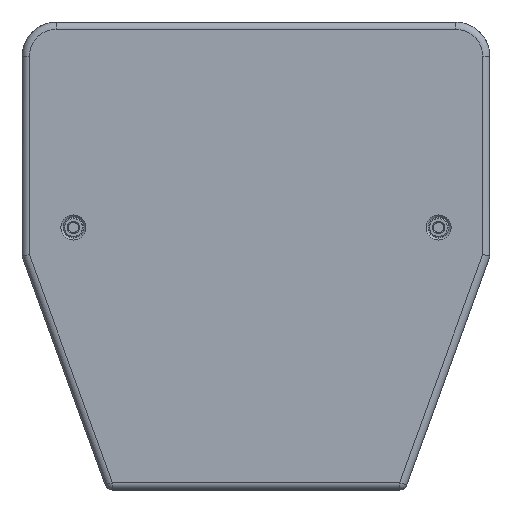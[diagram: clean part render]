
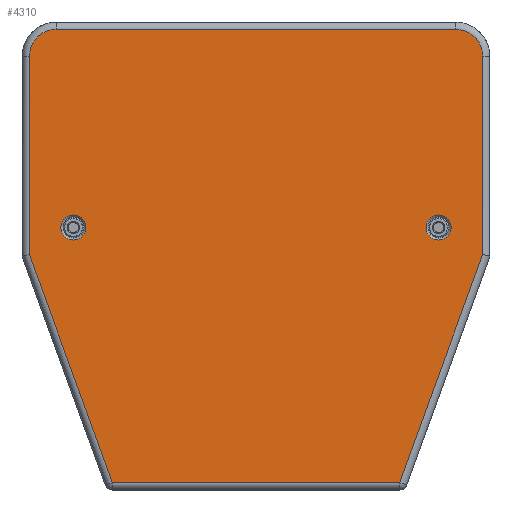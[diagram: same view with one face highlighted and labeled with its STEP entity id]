
A CAD part, front view. The second image highlights one B-rep face of the part: STEP entity #4310.
In plain terms, the highlighted planar face has unit normal (0, -1, 0) as drawn and (0, 0, -1) by its records, which use the part's own axes.
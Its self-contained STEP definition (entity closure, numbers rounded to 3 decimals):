
#861 = VERTEX_POINT ( 'NONE', #12406 ) ;
#862 = EDGE_CURVE ( 'NONE', #865, #861, #12405, .T. ) ;
#865 = VERTEX_POINT ( 'NONE', #12399 ) ;
#902 = EDGE_CURVE ( 'NONE', #909, #921, #12462, .T. ) ;
#909 = VERTEX_POINT ( 'NONE', #12452 ) ;
#910 = EDGE_CURVE ( 'NONE', #921, #909, #12511, .T. ) ;
#921 = VERTEX_POINT ( 'NONE', #12490 ) ;
#928 = VERTEX_POINT ( 'NONE', #12541 ) ;
#930 = VERTEX_POINT ( 'NONE', #12540 ) ;
#936 = VERTEX_POINT ( 'NONE', #12537 ) ;
#937 = EDGE_CURVE ( 'NONE', #928, #930, #12536, .T. ) ;
#959 = VERTEX_POINT ( 'NONE', #12555 ) ;
#975 = VERTEX_POINT ( 'NONE', #12583 ) ;
#984 = EDGE_CURVE ( 'NONE', #861, #865, #12581, .T. ) ;
#1001 = EDGE_CURVE ( 'NONE', #930, #936, #12649, .T. ) ;
#1007 = EDGE_CURVE ( 'NONE', #1017, #959, #12676, .T. ) ;
#1015 = EDGE_CURVE ( 'NONE', #936, #1017, #12663, .T. ) ;
#1017 = VERTEX_POINT ( 'NONE', #12658 ) ;
#1022 = VERTEX_POINT ( 'NONE', #12652 ) ;
#1024 = EDGE_CURVE ( 'NONE', #959, #1022, #12692, .T. ) ;
#1046 = EDGE_CURVE ( 'NONE', #975, #928, #12712, .T. ) ;
#3866 = EDGE_CURVE ( 'NONE', #1022, #4134, #12830, .T. ) ;
#4134 = VERTEX_POINT ( 'NONE', #12894 ) ;
#4283 = ORIENTED_EDGE ( 'NONE', *, *, #4287, .F. ) ;
#4287 = EDGE_CURVE ( 'NONE', #4134, #975, #13202, .T. ) ;
#4288 = ORIENTED_EDGE ( 'NONE', *, *, #937, .F. ) ;
#4289 = ORIENTED_EDGE ( 'NONE', *, *, #1046, .F. ) ;
#4296 = EDGE_LOOP ( 'NONE', ( #4297, #4298, #4299, #4288, #4289, #4283, #4335, #4338 ) ) ;
#4297 = ORIENTED_EDGE ( 'NONE', *, *, #1007, .F. ) ;
#4298 = ORIENTED_EDGE ( 'NONE', *, *, #1015, .F. ) ;
#4299 = ORIENTED_EDGE ( 'NONE', *, *, #1001, .F. ) ;
#4310 = ADVANCED_FACE ( 'NONE', ( #13233, #13232, #13231 ), #13230, .F. ) ;
#4316 = EDGE_LOOP ( 'NONE', ( #4320, #4317 ) ) ;
#4317 = ORIENTED_EDGE ( 'NONE', *, *, #910, .F. ) ;
#4320 = ORIENTED_EDGE ( 'NONE', *, *, #902, .F. ) ;
#4333 = ORIENTED_EDGE ( 'NONE', *, *, #862, .F. ) ;
#4334 = EDGE_LOOP ( 'NONE', ( #4336, #4333 ) ) ;
#4335 = ORIENTED_EDGE ( 'NONE', *, *, #3866, .F. ) ;
#4336 = ORIENTED_EDGE ( 'NONE', *, *, #984, .F. ) ;
#4338 = ORIENTED_EDGE ( 'NONE', *, *, #1024, .F. ) ;
#12399 = CARTESIAN_POINT ( 'NONE',  ( 45., 169., -15. ) ) ;
#12401 = DIRECTION ( 'NONE',  ( 0., 1., 0. ) ) ;
#12402 = DIRECTION ( 'NONE',  ( 0., 0., -1. ) ) ;
#12403 = CARTESIAN_POINT ( 'NONE',  ( 45., 180., -15. ) ) ;
#12404 = AXIS2_PLACEMENT_3D ( 'NONE', #12403, #12402, #12401 ) ;
#12405 = CIRCLE ( 'NONE', #12404, 11. ) ;
#12406 = CARTESIAN_POINT ( 'NONE',  ( 45., 191., -15. ) ) ;
#12452 = CARTESIAN_POINT ( 'NONE',  ( 365., 191., -15. ) ) ;
#12458 = DIRECTION ( 'NONE',  ( 0., 1., 0. ) ) ;
#12459 = DIRECTION ( 'NONE',  ( 0., 0., -1. ) ) ;
#12460 = CARTESIAN_POINT ( 'NONE',  ( 365., 180., -15. ) ) ;
#12461 = AXIS2_PLACEMENT_3D ( 'NONE', #12460, #12459, #12458 ) ;
#12462 = CIRCLE ( 'NONE', #12461, 11. ) ;
#12490 = CARTESIAN_POINT ( 'NONE',  ( 365., 169., -15. ) ) ;
#12507 = DIRECTION ( 'NONE',  ( 0., 1., 0. ) ) ;
#12508 = DIRECTION ( 'NONE',  ( 0., 0., -1. ) ) ;
#12509 = CARTESIAN_POINT ( 'NONE',  ( 365., 180., -15. ) ) ;
#12510 = AXIS2_PLACEMENT_3D ( 'NONE', #12509, #12508, #12507 ) ;
#12511 = CIRCLE ( 'NONE', #12510, 11. ) ;
#12533 = DIRECTION ( 'NONE',  ( 0., -1., 0. ) ) ;
#12534 = VECTOR ( 'NONE', #12533, 1000. ) ;
#12535 = CARTESIAN_POINT ( 'NONE',  ( 6.5, 30., -15. ) ) ;
#12536 = LINE ( 'NONE', #12535, #12534 ) ;
#12537 = CARTESIAN_POINT ( 'NONE',  ( 30., 6.5, -15. ) ) ;
#12540 = CARTESIAN_POINT ( 'NONE',  ( 6.5, 30., -15. ) ) ;
#12541 = CARTESIAN_POINT ( 'NONE',  ( 6.5, 203.854, -15. ) ) ;
#12555 = CARTESIAN_POINT ( 'NONE',  ( 403.5, 30., -15. ) ) ;
#12577 = DIRECTION ( 'NONE',  ( 0., 1., 0. ) ) ;
#12578 = DIRECTION ( 'NONE',  ( 0., 0., -1. ) ) ;
#12579 = CARTESIAN_POINT ( 'NONE',  ( 45., 180., -15. ) ) ;
#12580 = AXIS2_PLACEMENT_3D ( 'NONE', #12579, #12578, #12577 ) ;
#12581 = CIRCLE ( 'NONE', #12580, 11. ) ;
#12583 = CARTESIAN_POINT ( 'NONE',  ( 79.165, 403.5, -15. ) ) ;
#12645 = CARTESIAN_POINT ( 'NONE',  ( 30., 6.5, -15. ) ) ;
#12646 = CARTESIAN_POINT ( 'NONE',  ( 16.234, 6.5, -15. ) ) ;
#12647 = CARTESIAN_POINT ( 'NONE',  ( 6.5, 16.234, -15. ) ) ;
#12648 = CARTESIAN_POINT ( 'NONE',  ( 6.5, 30., -15. ) ) ;
#12649 =( BOUNDED_CURVE ( )  B_SPLINE_CURVE ( 3, ( #12648, #12647, #12646, #12645 ),
 .UNSPECIFIED., .F., .T. ) 
 B_SPLINE_CURVE_WITH_KNOTS ( ( 4, 4 ),
 ( 0., 1. ),
 .UNSPECIFIED. ) 
 CURVE ( )  GEOMETRIC_REPRESENTATION_ITEM ( )  RATIONAL_B_SPLINE_CURVE ( ( 1., 0.805, 0.805, 1. ) ) 
 REPRESENTATION_ITEM ( '' )  );
#12652 = CARTESIAN_POINT ( 'NONE',  ( 403.5, 203.854, -15. ) ) ;
#12658 = CARTESIAN_POINT ( 'NONE',  ( 380., 6.5, -15. ) ) ;
#12660 = DIRECTION ( 'NONE',  ( 1., 0., 0. ) ) ;
#12661 = VECTOR ( 'NONE', #12660, 1000. ) ;
#12662 = CARTESIAN_POINT ( 'NONE',  ( 0., 6.5, -15. ) ) ;
#12663 = LINE ( 'NONE', #12662, #12661 ) ;
#12672 = CARTESIAN_POINT ( 'NONE',  ( 403.5, 30., -15. ) ) ;
#12673 = CARTESIAN_POINT ( 'NONE',  ( 403.5, 16.234, -15. ) ) ;
#12674 = CARTESIAN_POINT ( 'NONE',  ( 393.766, 6.5, -15. ) ) ;
#12675 = CARTESIAN_POINT ( 'NONE',  ( 380., 6.5, -15. ) ) ;
#12676 =( BOUNDED_CURVE ( )  B_SPLINE_CURVE ( 3, ( #12675, #12674, #12673, #12672 ),
 .UNSPECIFIED., .F., .T. ) 
 B_SPLINE_CURVE_WITH_KNOTS ( ( 4, 4 ),
 ( 0., 1. ),
 .UNSPECIFIED. ) 
 CURVE ( )  GEOMETRIC_REPRESENTATION_ITEM ( )  RATIONAL_B_SPLINE_CURVE ( ( 1., 0.805, 0.805, 1. ) ) 
 REPRESENTATION_ITEM ( '' )  );
#12689 = DIRECTION ( 'NONE',  ( 0., 1., 0. ) ) ;
#12690 = VECTOR ( 'NONE', #12689, 1000. ) ;
#12691 = CARTESIAN_POINT ( 'NONE',  ( 403.5, 30., -15. ) ) ;
#12692 = LINE ( 'NONE', #12691, #12690 ) ;
#12709 = DIRECTION ( 'NONE',  ( -0.342, -0.94, 0. ) ) ;
#12710 = VECTOR ( 'NONE', #12709, 1000. ) ;
#12711 = CARTESIAN_POINT ( 'NONE',  ( 79.165, 403.5, -15. ) ) ;
#12712 = LINE ( 'NONE', #12711, #12710 ) ;
#12827 = DIRECTION ( 'NONE',  ( -0.342, 0.94, 0. ) ) ;
#12828 = VECTOR ( 'NONE', #12827, 1000. ) ;
#12829 = CARTESIAN_POINT ( 'NONE',  ( 403.5, 203.854, -15. ) ) ;
#12830 = LINE ( 'NONE', #12829, #12828 ) ;
#12894 = CARTESIAN_POINT ( 'NONE',  ( 330.835, 403.5, -15. ) ) ;
#13199 = DIRECTION ( 'NONE',  ( -1., 0., 0. ) ) ;
#13200 = VECTOR ( 'NONE', #13199, 1000. ) ;
#13201 = CARTESIAN_POINT ( 'NONE',  ( 167.693, 403.5, -15. ) ) ;
#13202 = LINE ( 'NONE', #13201, #13200 ) ;
#13226 = DIRECTION ( 'NONE',  ( 1., 0., 0. ) ) ;
#13227 = DIRECTION ( 'NONE',  ( 0., 0., 1. ) ) ;
#13228 = CARTESIAN_POINT ( 'NONE',  ( 0., 30., -15. ) ) ;
#13229 = AXIS2_PLACEMENT_3D ( 'NONE', #13228, #13227, #13226 ) ;
#13230 = PLANE ( 'NONE',  #13229 ) ;
#13231 = FACE_BOUND ( 'NONE', #4316, .T. ) ;
#13232 = FACE_BOUND ( 'NONE', #4334, .T. ) ;
#13233 = FACE_OUTER_BOUND ( 'NONE', #4296, .T. ) ;
